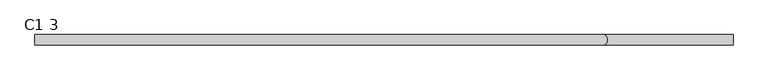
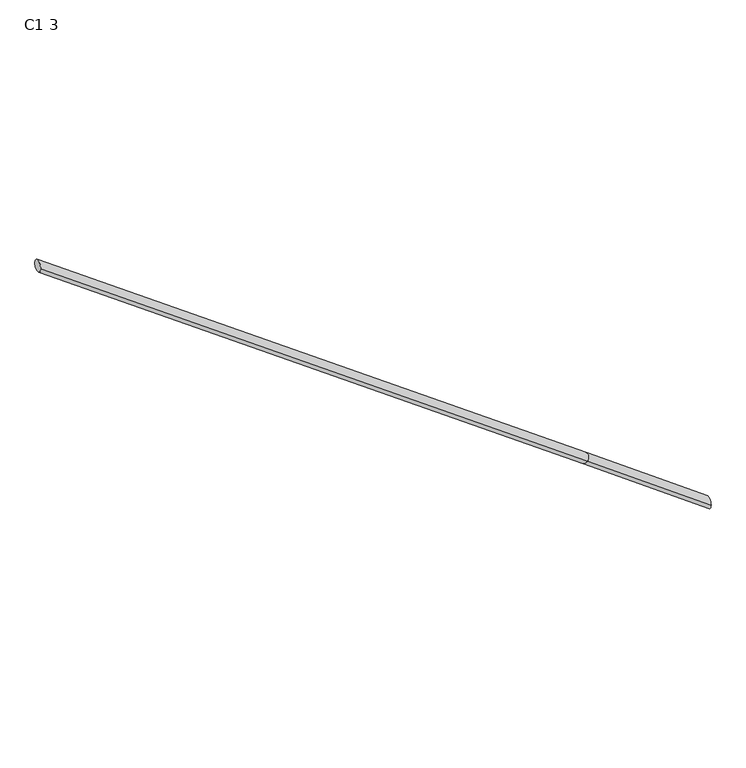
"""IFC4 building model written with IfcOpenShell, lengths in millimetres: railing geometry, C1 3."""

from ifc_helpers import new_model, si_unit, frame, origin, place, context, project, spatial, ellipse_curve, source, transform, mapped, element, save
from ifc_brep_helpers import plane_surface, cylinder_surface, advanced_brep


def c1_3_be0866bc(model_context):
    return source(origin(), model_context, "Body", "AdvancedBrep", [
        advanced_brep(
        [(-1569.742735, 56.4279593, 1523.3108208), (-1569.742735, 6.4279593, 1523.3108208), (-2184.4108068, 56.4279593, 1970.4700733), (-2184.4108068, 6.4279593, 1970.4700733), (-4910.6460259, 56.4279593, 3937.7250884), (-4910.6460259, 6.4279593, 3937.7250884)],
        [
            (0, 1, ellipse_curve(frame((-1569.742735, 31.4279593, 1523.3108208), z_axis=(1.0, 0.0, 0.0), x_axis=(0.0, 0.0, -1.0)), 30.9154936, 25.0)),
            (1, 0, ellipse_curve(frame((-1569.742735, 31.4279593, 1523.3108208), z_axis=(1.0, 0.0, 0.0), x_axis=(0.0, 0.0, -1.0)), 30.9154936, 25.0)),
            (0, 2),
            (2, 3, ellipse_curve(frame((-2184.4108068, 31.4279593, 1970.4700733), z_axis=(0.8097885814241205, 0.0, -0.5867217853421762), x_axis=(-0.5867217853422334, 0.0, -0.8097885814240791)), 25.0000465, 25.0)),
            (3, 1),
            (3, 2, ellipse_curve(frame((-2184.4108068, 31.4279593, 1970.4700733), z_axis=(0.8097885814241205, 0.0, -0.5867217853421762), x_axis=(-0.5867217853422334, 0.0, -0.8097885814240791)), 25.0000465, 25.0)),
            (4, 5, ellipse_curve(frame((-4910.6460259, 31.4279593, 3937.7250884), z_axis=(-1.0, 0.0, 0.0), x_axis=(0.0, 0.0, -1.0)), 30.8292526, 25.0)),
            (5, 4, ellipse_curve(frame((-4910.6460259, 31.4279593, 3937.7250884), z_axis=(-1.0, 0.0, 0.0), x_axis=(0.0, 0.0, -1.0)), 30.8292526, 25.0)),
            (2, 4),
            (5, 3),
        ],
        [
            plane_surface(frame((-1569.742735, 31.4279593, 1554.2263144), z_axis=(1.0, 0.0, 0.0), x_axis=(0.0, -1.0, 0.0))),
            cylinder_surface(frame((-1584.4497792, 31.4279593, 1534.0099139), z_axis=(0.8086560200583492, 0.0, -0.5882817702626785), x_axis=(0.0, -1.0, 0.0)), 25.0),
            plane_surface(frame((-4910.6460259, 31.4279593, 3968.5543411), z_axis=(-1.0, 0.0, 0.0), x_axis=(0.0, -1.0, 0.0))),
            cylinder_surface(frame((-2184.3717255, 31.4279593, 1970.4418721), z_axis=(0.810918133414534, 0.0, -0.5851596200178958), x_axis=(0.0, -1.0, 0.0)), 25.0),
        ],
        [
            (0, [[1, 2]]),
            (1, [[-1, 3, 4, 5]]),
            (1, [[-2, -5, 6, -3]]),
            (2, [[7, 8]]),
            (3, [[-4, 9, -8, 10]]),
            (3, [[-6, -10, -7, -9]]),
        ],
    ),
    ])


if __name__ == "__main__":
    model = new_model("IFC4")
    model_context = context("Model", 3, world=origin())
    ifc_project = project(units=[si_unit("LENGTHUNIT", "METRE", prefix="MILLI")], contexts=[model_context])
    site = spatial("IfcSite", under=ifc_project)
    building = spatial("IfcBuilding", under=site)
    placement = place(None, origin())
    c1_3_shape = c1_3_be0866bc(model_context)
    element("IfcRailing", 1, ObjectType="C1 3", at=placement, inside=building, context=model_context, shape_type="MappedRepresentation", body=[
        mapped(c1_3_shape, transform((0.0, 0.0, 0.0), x_axis=(1.0, 0.0, 0.0), y_axis=(0.0, 1.0, 0.0), z_axis=(0.0, 0.0, 1.0))),
    ])
    save(model, "model.ifc")
